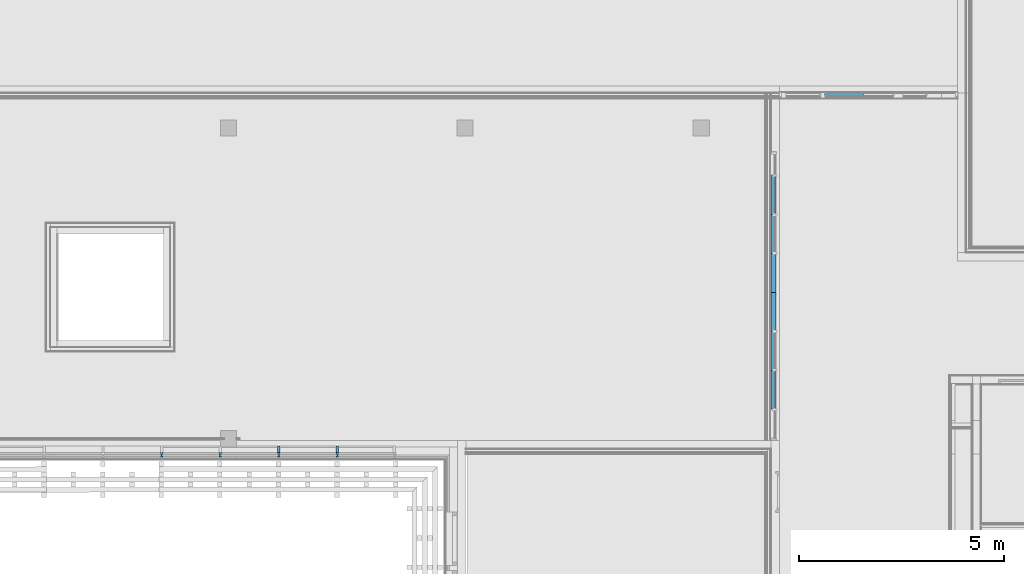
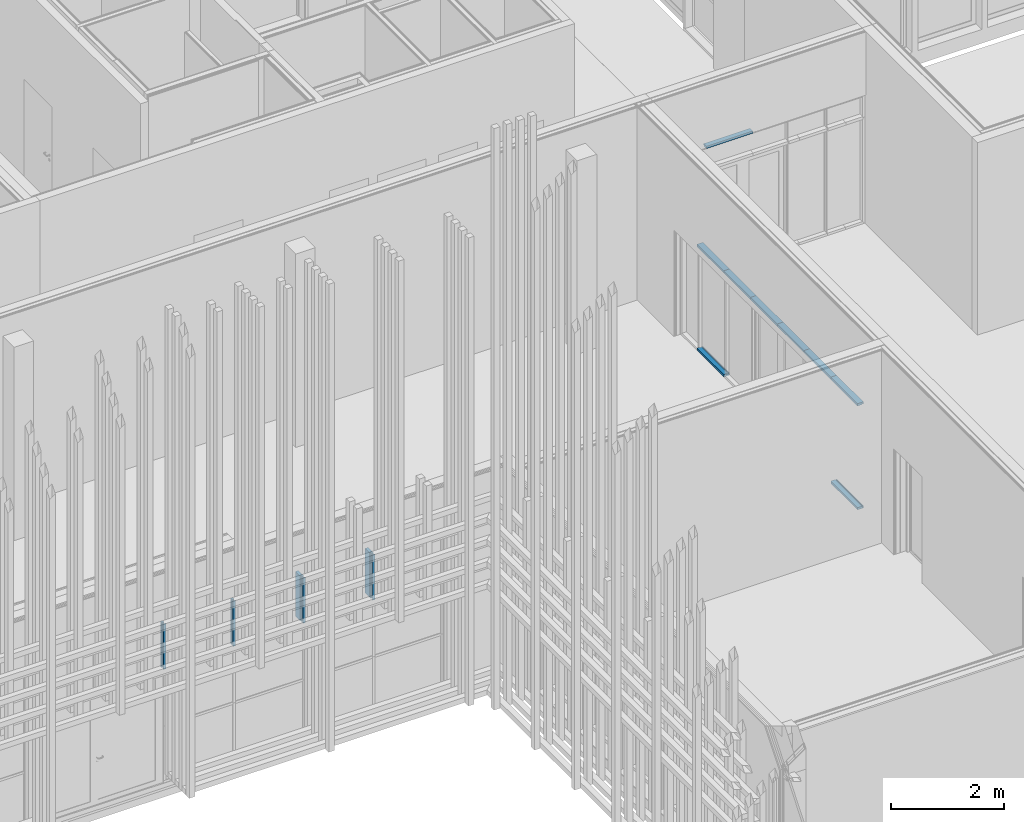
# One storey, part 46 of 260: 15 members, 4 elements without a shape of their own.
"""IFC2X3 building model written with IfcOpenShell, lengths in millimetres."""

from ifc_helpers import new_model, entity, si_unit, converted_unit, derived_unit, money_unit, direction, frame, origin_with_axes, place, context, subcontext, project, spatial, faceted_brep, source, transform, mapped, material, type_object, element, aggregate, save


model = new_model("IFC2X3")

# Units and contexts
model_context = context("Model", 3, precision=0.01, world=origin_with_axes(), true_north=direction((0.0, 1.0)))
body_context = subcontext(model_context, "Body", "Model", "MODEL_VIEW")
ifc_project = project(units=[si_unit("LENGTHUNIT", "METRE", prefix="MILLI"), si_unit("AREAUNIT", "SQUARE_METRE"), si_unit("VOLUMEUNIT", "CUBIC_METRE"), converted_unit("PLANEANGLEUNIT", "DEGREE", entity("IfcPlaneAngleMeasure", 0.0174532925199), si_unit("PLANEANGLEUNIT", "RADIAN"), dimensions=[0, 0, 0, 0, 0, 0, 0]), money_unit("EUR"), converted_unit("TIMEUNIT", "Year", entity("IfcTimeMeasure", 31556926.0), si_unit("TIMEUNIT", "SECOND"), dimensions=[0, 0, 1, 0, 0, 0, 0]), si_unit("MASSUNIT", "GRAM", prefix="KILO"), si_unit("THERMODYNAMICTEMPERATUREUNIT", "DEGREE_CELSIUS"), si_unit("LUMINOUSINTENSITYUNIT", "LUMEN"), si_unit("ENERGYUNIT", "JOULE", prefix="MEGA"), derived_unit("THERMALCONDUCTANCEUNIT", [(si_unit("POWERUNIT", "WATT"), 1), (si_unit("LENGTHUNIT", "METRE"), -1), (si_unit("THERMODYNAMICTEMPERATUREUNIT", "KELVIN"), -1)]), derived_unit("SPECIFICHEATCAPACITYUNIT", [(si_unit("ENERGYUNIT", "JOULE"), 1), (si_unit("MASSUNIT", "GRAM", prefix="KILO"), -1), (si_unit("THERMODYNAMICTEMPERATUREUNIT", "KELVIN"), -1)]), derived_unit("MASSDENSITYUNIT", [(si_unit("MASSUNIT", "GRAM", prefix="KILO"), 1), (si_unit("VOLUMEUNIT", "CUBIC_METRE"), -1)])], contexts=[model_context])

# Site, building, storey
site_placement = place(None, origin_with_axes())
site = spatial("IfcSite", under=ifc_project, at=site_placement, Name="Kolde pst 67a", CompositionType="ELEMENT")
building_placement = place(site_placement, origin_with_axes())
building = spatial("IfcBuilding", under=site, at=building_placement, Name="Riigigümnaasium", CompositionType="ELEMENT")
storey_placement = place(building_placement, origin_with_axes())
storey = spatial("IfcBuildingStorey", under=building, at=storey_placement, Name="1. korrus", CompositionType="ELEMENT", Elevation=0.0)

# Curtain wall, members
curtain_wall_type = type_object("IfcCurtainWallType", Name="Curtain Wall Type", PredefinedType="NOTDEFINED")
curtain_wall_1_placement = place(storey_placement, frame((20393.1746439, 47839.7660528, -0.000116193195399), z_axis=(0.0, 0.0, 1.0), x_axis=(1.0, 0.0, 0.0)))
curtain_wall_1 = element("IfcCurtainWall", 1, at=curtain_wall_1_placement, inside=storey, type_object=curtain_wall_type, Name="KLAASFASSAAD")
ifc_material_1 = material(Name="_METALL - alumiinium")
member_type_1 = type_object("IfcMemberType", Name="Mullion Frame 50 x 100", PredefinedType="MEMBER")
shared_shape_1 = source(origin_with_axes(), body_context, "Body", "Brep", [
    faceted_brep([(5.0, -24.0, 980.000026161), (5.0, 24.0, 980.000028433), (25.0, 24.0, 980.000028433), (25.0, 40.0, 980.00002919), (-25.0, 40.0, 980.00002919), (-25.0, 24.0, 980.000028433), (-5.0, 24.0, 980.000028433), (-5.0, -24.0, 980.000026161), (-25.0, -24.0, 980.000026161), (-25.0, -60.0, 980.000024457), (25.0, -60.0, 980.000024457), (25.0, -24.0, 980.000026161), (5.0, -24.0, 0.0), (5.0, 24.0, 0.0), (25.0, 24.0, 0.0), (25.0, 40.0, 0.0), (-25.0, 40.0, 0.0), (-25.0, 24.0, 0.0), (-5.0, 24.0, 0.0), (-5.0, -24.0, 0.0), (-25.0, -24.0, 0.0), (-25.0, -60.0, 0.0), (25.0, -60.0, 0.0), (25.0, -24.0, 0.0)], [[[0, 1, 2, 3, 4, 5, 6, 7, 8, 9, 10, 11]], [[0, 12, 13, 1]], [[1, 13, 14, 2]], [[14, 15, 3, 2]], [[3, 15, 16, 4]], [[17, 5, 4, 16]], [[5, 17, 18, 6]], [[7, 6, 18, 19]], [[8, 7, 19, 20]], [[8, 20, 21, 9]], [[9, 21, 22, 10]], [[11, 10, 22, 23]], [[11, 23, 12, 0]], [[13, 12, 23, 22, 21, 20, 19, 18, 17, 16, 15, 14]]]),
])
member_1_placement = place(curtain_wall_1_placement, frame((715.0, 0.0, 2460.00011619), z_axis=(0.0, 0.0, 1.0), x_axis=(1.0, 0.0, 0.0)))
member_1 = element("IfcMember", 2, at=member_1_placement, type_object=member_type_1, material=ifc_material_1, Name="RF RAAM VERT-470", ObjectType="MEMBER", context=body_context, shape_type="MappedRepresentation", body=[
    mapped(shared_shape_1, transform((0.0, 0.0, 0.0), x_axis=(-1.0, 0.0, 0.0), y_axis=(0.0, -1.0, 0.0), z_axis=(0.0, 0.0, 1.0))),
])
member_2_placement = place(curtain_wall_1_placement, frame((-715.0, 0.0, 2460.00011619), z_axis=(0.0, 0.0, 1.0), x_axis=(1.0, 0.0, 0.0)))
member_2 = element("IfcMember", 3, at=member_2_placement, type_object=member_type_1, material=ifc_material_1, Name="RF RAAM VERT-471", ObjectType="MEMBER", context=body_context, shape_type="MappedRepresentation", body=[
    mapped(shared_shape_1, transform((0.0, 0.0, 0.0), x_axis=(-1.0, 0.0, 0.0), y_axis=(0.0, -1.0, 0.0), z_axis=(0.0, 0.0, 1.0))),
])
member_3_placement = place(curtain_wall_1_placement, frame((-2145.0, 0.0, 2460.00011619), z_axis=(0.0, 0.0, 1.0), x_axis=(1.0, 0.0, 0.0)))
member_3 = element("IfcMember", 4, at=member_3_placement, type_object=member_type_1, material=ifc_material_1, Name="RF RAAM VERT-472", ObjectType="MEMBER", context=body_context, shape_type="MappedRepresentation", body=[
    mapped(shared_shape_1, transform((0.0, 0.0, 0.0), x_axis=(-1.0, 0.0, 0.0), y_axis=(0.0, -1.0, 0.0), z_axis=(0.0, 0.0, 1.0))),
])
member_4_placement = place(curtain_wall_1_placement, frame((-3575.0, 0.0, 2460.00011619), z_axis=(0.0, 0.0, 1.0), x_axis=(1.0, 0.0, 0.0)))
member_4 = element("IfcMember", 5, at=member_4_placement, type_object=member_type_1, material=ifc_material_1, Name="RF RAAM VERT-473", ObjectType="MEMBER", context=body_context, shape_type="MappedRepresentation", body=[
    mapped(shared_shape_1, transform((0.0, 0.0, 0.0), x_axis=(-1.0, 0.0, 0.0), y_axis=(0.0, -1.0, 0.0), z_axis=(0.0, 0.0, 1.0))),
])
aggregate(curtain_wall_1, [member_1, member_2, member_3, member_4])

curtain_wall_2_placement = place(storey_placement, frame((31790.0027795, 49434.9164747, -6.11802017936e-05), z_axis=(0.0, 0.0, 1.0), x_axis=(1.0, 0.0, 0.0)))
curtain_wall_2 = element("IfcCurtainWall", 6, at=curtain_wall_2_placement, inside=storey, type_object=curtain_wall_type, Name="KLAASSEIN")
ifc_material_2 = material(Name="_GENEERILINE MATERJAL")
member_type_2 = type_object("IfcMemberType", Name="Boundary Frame 50 x 120", PredefinedType="MEMBER")
shared_shape_2 = source(origin_with_axes(), body_context, "Body", "Brep", [
    faceted_brep([(30.0, -10.0, 950.0), (30.0, 10.0, 950.0), (50.0, 10.0, 950.0), (50.0, 20.0, 950.0), (0.0, 20.0, 950.0), (0.0, -100.0, 950.0), (50.0, -100.0, 950.0), (50.0, -10.0, 950.0), (30.0, -10.0, 0.0), (30.0, 10.0, 0.0), (50.0, 10.0, 0.0), (50.0, 20.0, 0.0), (0.0, 20.0, 0.0), (0.0, -100.0, 0.0), (50.0, -100.0, 0.0), (50.0, -10.0, 0.0)], [[[0, 1, 2, 3, 4, 5, 6, 7]], [[1, 0, 8, 9]], [[10, 2, 1, 9]], [[2, 10, 11, 3]], [[12, 4, 3, 11]], [[13, 5, 4, 12]], [[14, 6, 5, 13]], [[15, 7, 6, 14]], [[0, 7, 15, 8]], [[8, 15, 14, 13, 12, 11, 10, 9]]]),
])
member_5_placement = place(curtain_wall_2_placement, frame((0.0, -475.0, 1.68701678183e-05), z_axis=(0.0, 1.0, 0.0), x_axis=(0.0, 0.0, 1.0)))
member_5 = element("IfcMember", 7, at=member_5_placement, type_object=member_type_2, material=ifc_material_2, Name="RF RAAM SERV-134", ObjectType="MEMBER", context=body_context, shape_type="MappedRepresentation", body=[
    mapped(shared_shape_2, transform((0.0, 0.0, 0.0))),
])
member_6_placement = place(curtain_wall_2_placement, frame((0.0, 4275.0, 1.68701678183e-05), z_axis=(0.0, 1.0, 0.0), x_axis=(0.0, 0.0, 1.0)))
member_6 = element("IfcMember", 8, at=member_6_placement, type_object=member_type_2, material=ifc_material_2, Name="RF RAAM SERV-139", ObjectType="MEMBER", context=body_context, shape_type="MappedRepresentation", body=[
    mapped(shared_shape_2, transform((0.0, 0.0, 0.0))),
])
shared_shape_3 = source(origin_with_axes(), body_context, "Body", "Brep", [
    faceted_brep([(-30.0, -10.0, 950.0), (-50.0, -10.0, 950.0), (-50.0, -100.0, 950.0), (0.0, -100.0, 950.0), (0.0, 20.0, 950.0), (-50.0, 20.0, 950.0), (-50.0, 10.0, 950.0), (-30.0, 10.0, 950.0), (-30.0, -10.0, 0.0), (-50.0, -10.0, 0.0), (-50.0, -100.0, 0.0), (0.0, -100.0, 0.0), (0.0, 20.0, 0.0), (-50.0, 20.0, 0.0), (-50.0, 10.0, 0.0), (-30.0, 10.0, 0.0)], [[[0, 1, 2, 3, 4, 5, 6, 7]], [[0, 8, 9, 1]], [[9, 10, 2, 1]], [[10, 11, 3, 2]], [[11, 12, 4, 3]], [[12, 13, 5, 4]], [[6, 5, 13, 14]], [[14, 15, 7, 6]], [[7, 15, 8, 0]], [[8, 15, 14, 13, 12, 11, 10, 9]]]),
])
member_7_placement = place(curtain_wall_2_placement, frame((0.0, -475.0, 2300.0001182), z_axis=(0.0, 1.0, 0.0), x_axis=(0.0, 0.0, 1.0)))
member_7 = element("IfcMember", 9, at=member_7_placement, type_object=member_type_2, material=ifc_material_2, Name="RF RAAM SERV-148", ObjectType="MEMBER", context=body_context, shape_type="MappedRepresentation", body=[
    mapped(shared_shape_3, transform((0.0, 0.0, 0.0))),
])
member_8_placement = place(curtain_wall_2_placement, frame((0.0, 475.0, 2300.0001182), z_axis=(0.0, 1.0, 0.0), x_axis=(0.0, 0.0, 1.0)))
member_8 = element("IfcMember", 10, at=member_8_placement, type_object=member_type_2, material=ifc_material_2, Name="RF RAAM SERV-147", ObjectType="MEMBER", context=body_context, shape_type="MappedRepresentation", body=[
    mapped(shared_shape_3, transform((0.0, 0.0, 0.0))),
])
member_9_placement = place(curtain_wall_2_placement, frame((0.0, 1425.0, 2300.0001182), z_axis=(0.0, 1.0, 0.0), x_axis=(0.0, 0.0, 1.0)))
member_9 = element("IfcMember", 11, at=member_9_placement, type_object=member_type_2, material=ifc_material_2, Name="RF RAAM SERV-146", ObjectType="MEMBER", context=body_context, shape_type="MappedRepresentation", body=[
    mapped(shared_shape_3, transform((0.0, 0.0, 0.0))),
])
member_10_placement = place(curtain_wall_2_placement, frame((0.0, 2375.0, 2300.0001182), z_axis=(0.0, 1.0, 0.0), x_axis=(0.0, 0.0, 1.0)))
member_10 = element("IfcMember", 12, at=member_10_placement, type_object=member_type_2, material=ifc_material_2, Name="RF RAAM SERV-145", ObjectType="MEMBER", context=body_context, shape_type="MappedRepresentation", body=[
    mapped(shared_shape_3, transform((0.0, 0.0, 0.0))),
])
member_11_placement = place(curtain_wall_2_placement, frame((0.0, 3325.0, 2300.0001182), z_axis=(0.0, 1.0, 0.0), x_axis=(0.0, 0.0, 1.0)))
member_11 = element("IfcMember", 13, at=member_11_placement, type_object=member_type_2, material=ifc_material_2, Name="RF RAAM SERV-144", ObjectType="MEMBER", context=body_context, shape_type="MappedRepresentation", body=[
    mapped(shared_shape_3, transform((0.0, 0.0, 0.0))),
])
member_12_placement = place(curtain_wall_2_placement, frame((0.0, 4275.0, 2300.0001182), z_axis=(0.0, 1.0, 0.0), x_axis=(0.0, 0.0, 1.0)))
member_12 = element("IfcMember", 14, at=member_12_placement, type_object=member_type_2, material=ifc_material_2, Name="RF RAAM SERV-143", ObjectType="MEMBER", context=body_context, shape_type="MappedRepresentation", body=[
    mapped(shared_shape_3, transform((0.0, 0.0, 0.0))),
])
aggregate(curtain_wall_2, [member_5, member_7, member_8, member_9, member_10, member_11, member_6, member_12])

# Curtain wall, member
curtain_wall_3_placement = place(storey_placement, frame((32274.8343542, 56679.9979478, 0.0), z_axis=(0.0, 0.0, 1.0), x_axis=(1.0, 0.0, 0.0)))
curtain_wall_3 = element("IfcCurtainWall", 15, at=curtain_wall_3_placement, inside=storey, type_object=curtain_wall_type, Name="KLAASSEIN")
member_type_3 = type_object("IfcMemberType", Name="Boundary Frame 50 x 100", PredefinedType="MEMBER")
shared_shape_4 = source(origin_with_axes(), body_context, "Body", "Brep", [
    faceted_brep([(-50.0, -10.0, 0.0), (-50.0, -100.0, 0.0), (-50.0, -100.0, 950.000000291), (-50.0, -10.0, 950.000000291), (-25.0, -10.0, 0.0), (-25.0, 0.0, 0.0), (0.0, 0.0, 0.0), (0.0, -100.0, 0.0), (0.0, -100.0, 950.000000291), (-25.0, -10.0, 950.000000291), (0.0, 0.0, 950.000000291), (-25.0, 0.0, 950.000000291)], [[[0, 1, 2, 3]], [[4, 5, 6, 7, 1, 0]], [[1, 7, 8, 2]], [[9, 3, 2, 8, 10, 11]], [[9, 4, 0, 3]], [[5, 4, 9, 11]], [[11, 10, 6, 5]], [[7, 6, 10, 8]]]),
])
member_13_placement = place(curtain_wall_3_placement, frame((1667.6653227, 0.0, 2800.00008345), z_axis=(-1.0, 0.0, 0.0), x_axis=(0.0, 0.0, -1.0)))
member_13 = element("IfcMember", 16, at=member_13_placement, type_object=member_type_3, material=ifc_material_2, Name="RF RAAM SERV-206", ObjectType="MEMBER", context=body_context, shape_type="MappedRepresentation", body=[
    mapped(shared_shape_4, transform((0.0, 0.0, 0.0), x_axis=(-1.0, 0.0, 0.0), y_axis=(0.0, -1.0, 0.0), z_axis=(0.0, 0.0, 1.0))),
])
aggregate(curtain_wall_3, [member_13])

# Curtain wall, members
curtain_wall_4_placement = place(storey_placement, frame((20393.1747334, 47899.7660528, -0.000116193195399), z_axis=(0.0, 0.0, 1.0), x_axis=(1.0, 0.0, 0.0)))
curtain_wall_4 = element("IfcCurtainWall", 17, at=curtain_wall_4_placement, inside=storey, type_object=curtain_wall_type, Name="Klaasfassaadi puitkarkass")
ifc_material_3 = material(Name="_KANDETARIND - liimpuit vastavalt EK osale")
member_type_4 = type_object("IfcMemberType", Name="Mullion Frame 60 x 160", PredefinedType="MEMBER")
shared_shape_5 = source(origin_with_axes(), body_context, "Body", "Brep", [
    faceted_brep([(-30.0, -160.0, 0.0), (-30.0, -160.0, 970.000019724), (-30.0, 0.0, 970.000027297), (-30.0, 0.0, 0.0), (30.0, -160.0, 0.0), (30.0, -160.0, 970.000019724), (30.0, 0.0, 970.000027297), (30.0, 0.0, 0.0)], [[[0, 1, 2, 3]], [[4, 5, 1, 0]], [[1, 5, 6, 2]], [[3, 2, 6, 7]], [[0, 3, 7, 4]], [[7, 6, 5, 4]]]),
])
member_14_placement = place(curtain_wall_4_placement, frame((715.0, 0.0, 2460.00011619), z_axis=(0.0, 0.0, 1.0), x_axis=(1.0, 0.0, 0.0)))
member_14 = element("IfcMember", 18, at=member_14_placement, type_object=member_type_4, material=ifc_material_3, Name="RF RAAM VERT-446", ObjectType="MEMBER", context=body_context, shape_type="MappedRepresentation", body=[
    mapped(shared_shape_5, transform((0.0, 0.0, 0.0), x_axis=(-1.0, 0.0, 0.0), y_axis=(0.0, -1.0, 0.0), z_axis=(0.0, 0.0, 1.0))),
])
member_15_placement = place(curtain_wall_4_placement, frame((-715.0, 0.0, 2460.00011619), z_axis=(0.0, 0.0, 1.0), x_axis=(1.0, 0.0, 0.0)))
member_15 = element("IfcMember", 19, at=member_15_placement, type_object=member_type_4, material=ifc_material_3, Name="RF RAAM VERT-447", ObjectType="MEMBER", context=body_context, shape_type="MappedRepresentation", body=[
    mapped(shared_shape_5, transform((0.0, 0.0, 0.0), x_axis=(-1.0, 0.0, 0.0), y_axis=(0.0, -1.0, 0.0), z_axis=(0.0, 0.0, 1.0))),
])
aggregate(curtain_wall_4, [member_14, member_15])

save(model, "model.ifc")
